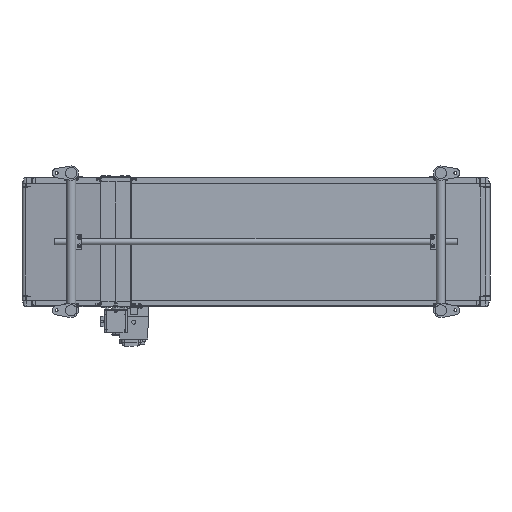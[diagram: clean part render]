
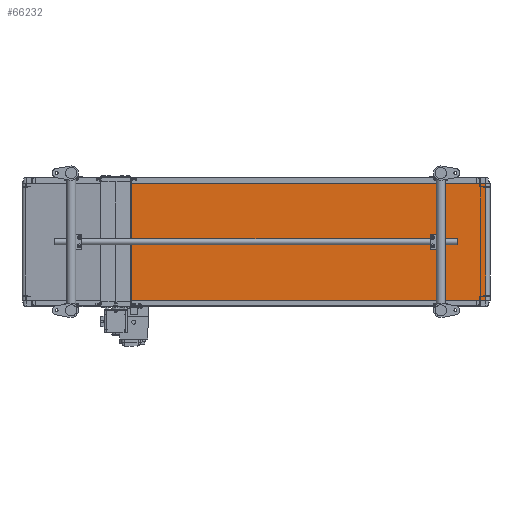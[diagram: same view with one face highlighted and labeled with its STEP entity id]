
A CAD part, front view. The second image highlights one B-rep face of the part: STEP entity #66232.
In plain terms, the highlighted planar face has unit normal (0.023, -1, 0).
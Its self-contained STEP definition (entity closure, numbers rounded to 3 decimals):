
#2799 = CARTESIAN_POINT ( 'NONE',  ( 1982.907, -34.195, 250. ) ) ;
#3491 = LINE ( 'NONE', #63014, #27239 ) ;
#6031 = VECTOR ( 'NONE', #37721, 1000. ) ;
#9329 = CARTESIAN_POINT ( 'NONE',  ( 434.607, -70.005, -250. ) ) ;
#10987 = DIRECTION ( 'NONE',  ( -0.023, 1., 0. ) ) ;
#13243 = VERTEX_POINT ( 'NONE', #23795 ) ;
#19817 = EDGE_CURVE ( 'NONE', #13243, #102947, #79685, .T. ) ;
#23795 = CARTESIAN_POINT ( 'NONE',  ( 1982.907, -34.195, -250. ) ) ;
#26776 = CARTESIAN_POINT ( 'NONE',  ( 434.607, -70.005, 250. ) ) ;
#27239 = VECTOR ( 'NONE', #46662, 1000. ) ;
#34380 = EDGE_CURVE ( 'NONE', #94204, #87767, #41164, .T. ) ;
#36876 = CARTESIAN_POINT ( 'NONE',  ( 1982.907, -34.195, 250. ) ) ;
#37721 = DIRECTION ( 'NONE',  ( -1., -0.023, 0. ) ) ;
#39103 = FACE_OUTER_BOUND ( 'NONE', #82943, .T. ) ;
#41164 = LINE ( 'NONE', #36876, #47446 ) ;
#46662 = DIRECTION ( 'NONE',  ( 0., 0., 1. ) ) ;
#47446 = VECTOR ( 'NONE', #60875, 1000. ) ;
#50231 = AXIS2_PLACEMENT_3D ( 'NONE', #51039, #10987, #67814 ) ;
#50589 = ORIENTED_EDGE ( 'NONE', *, *, #53108, .F. ) ;
#50682 = PLANE ( 'NONE',  #50231 ) ;
#51039 = CARTESIAN_POINT ( 'NONE',  ( 1982.907, -34.195, -250. ) ) ;
#53108 = EDGE_CURVE ( 'NONE', #102947, #87767, #57383, .T. ) ;
#53548 = VECTOR ( 'NONE', #66178, 1000. ) ;
#57383 = LINE ( 'NONE', #9329, #53548 ) ;
#60875 = DIRECTION ( 'NONE',  ( -1., -0.023, 0. ) ) ;
#63014 = CARTESIAN_POINT ( 'NONE',  ( 1982.907, -34.195, -250. ) ) ;
#66178 = DIRECTION ( 'NONE',  ( 0., 0., 1. ) ) ;
#66232 = ADVANCED_FACE ( 'NONE', ( #39103 ), #50682, .F. ) ;
#67814 = DIRECTION ( 'NONE',  ( 1., 0.023, 0. ) ) ;
#69147 = CARTESIAN_POINT ( 'NONE',  ( 434.607, -70.005, -250. ) ) ;
#79685 = LINE ( 'NONE', #85441, #6031 ) ;
#79873 = ORIENTED_EDGE ( 'NONE', *, *, #34380, .T. ) ;
#82071 = ORIENTED_EDGE ( 'NONE', *, *, #19817, .F. ) ;
#82625 = EDGE_CURVE ( 'NONE', #13243, #94204, #3491, .T. ) ;
#82943 = EDGE_LOOP ( 'NONE', ( #79873, #50589, #82071, #95903 ) ) ;
#85441 = CARTESIAN_POINT ( 'NONE',  ( 1982.907, -34.195, -250. ) ) ;
#87767 = VERTEX_POINT ( 'NONE', #26776 ) ;
#94204 = VERTEX_POINT ( 'NONE', #2799 ) ;
#95903 = ORIENTED_EDGE ( 'NONE', *, *, #82625, .T. ) ;
#102947 = VERTEX_POINT ( 'NONE', #69147 ) ;
